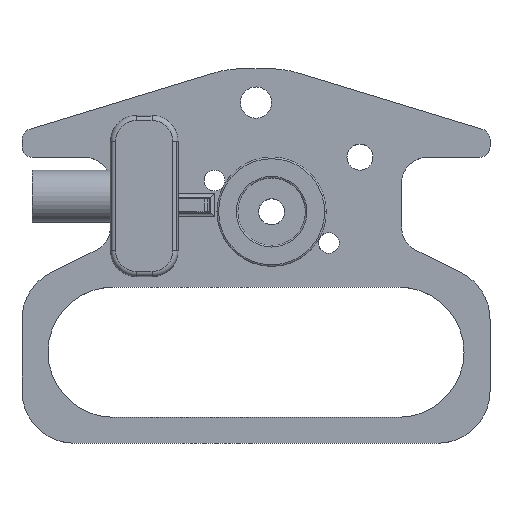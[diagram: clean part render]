
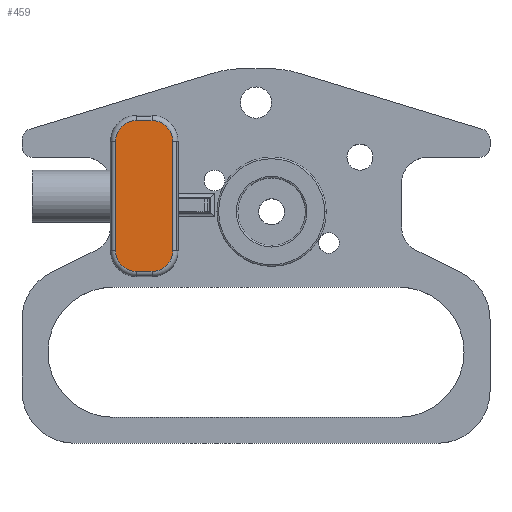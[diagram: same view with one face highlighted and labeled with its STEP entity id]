
A CAD part, top view. The second image highlights one B-rep face of the part: STEP entity #459.
In plain terms, the highlighted planar face has unit normal (0, 0, 1).
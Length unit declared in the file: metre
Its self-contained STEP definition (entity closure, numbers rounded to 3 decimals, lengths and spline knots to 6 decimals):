
#459=ADVANCED_FACE('',(#765),#766,.T.);
#765=FACE_OUTER_BOUND('',#1086,.T.);
#766=PLANE('',#1087);
#1086=EDGE_LOOP('',(#2204,#2205,#2206,#2207,#2208,#2209,#2210,#2211));
#1087=AXIS2_PLACEMENT_3D('',#2212,#2213,#2214);
#2204=ORIENTED_EDGE('',*,*,#2655,.F.);
#2205=ORIENTED_EDGE('',*,*,#2650,.F.);
#2206=ORIENTED_EDGE('',*,*,#2661,.F.);
#2207=ORIENTED_EDGE('',*,*,#2642,.F.);
#2208=ORIENTED_EDGE('',*,*,#2671,.F.);
#2209=ORIENTED_EDGE('',*,*,#2668,.F.);
#2210=ORIENTED_EDGE('',*,*,#2665,.F.);
#2211=ORIENTED_EDGE('',*,*,#2658,.F.);
#2212=CARTESIAN_POINT('',(0.024,-0.034,0.02));
#2213=DIRECTION('',(0.0,0.0,1.0));
#2214=DIRECTION('',(1.0,0.0,0.0));
#2642=EDGE_CURVE('',#3246,#3248,#3249,.T.);
#2650=EDGE_CURVE('',#3261,#3263,#3264,.T.);
#2655=EDGE_CURVE('',#3263,#3266,#3270,.T.);
#2658=EDGE_CURVE('',#3266,#3274,#3275,.T.);
#2661=EDGE_CURVE('',#3248,#3261,#3278,.T.);
#2665=EDGE_CURVE('',#3274,#3280,#3283,.T.);
#2668=EDGE_CURVE('',#3280,#3287,#3288,.T.);
#2671=EDGE_CURVE('',#3287,#3246,#3291,.T.);
#3246=VERTEX_POINT('',#4033);
#3248=VERTEX_POINT('',#4035);
#3249=LINE('',#4036,#4037);
#3261=VERTEX_POINT('',#4052);
#3263=VERTEX_POINT('',#4054);
#3264=LINE('',#4055,#4056);
#3266=VERTEX_POINT('',#4058);
#3270=CIRCLE('',#4062,0.004);
#3274=VERTEX_POINT('',#4067);
#3275=LINE('',#4068,#4069);
#3278=CIRCLE('',#4072,0.004);
#3280=VERTEX_POINT('',#4074);
#3283=CIRCLE('',#4077,0.004);
#3287=VERTEX_POINT('',#4082);
#3288=LINE('',#4083,#4084);
#3291=CIRCLE('',#4087,0.004);
#4033=CARTESIAN_POINT('',(0.001,-0.008,0.02));
#4035=CARTESIAN_POINT('',(0.004,-0.008,0.02));
#4036=CARTESIAN_POINT('',(0.01325,-0.008,0.02));
#4037=VECTOR('',#4810,1.0);
#4052=CARTESIAN_POINT('',(0.008,-0.012,0.02));
#4054=CARTESIAN_POINT('',(0.008,-0.033,0.02));
#4055=CARTESIAN_POINT('',(0.008,-0.02825,0.02));
#4056=VECTOR('',#4826,1.0);
#4058=CARTESIAN_POINT('',(0.004,-0.037,0.02));
#4062=AXIS2_PLACEMENT_3D('',#4839,#4840,#4841);
#4067=CARTESIAN_POINT('',(0.001,-0.037,0.02));
#4068=CARTESIAN_POINT('',(0.01325,-0.037,0.02));
#4069=VECTOR('',#4846,1.0);
#4072=AXIS2_PLACEMENT_3D('',#4853,#4854,#4855);
#4074=CARTESIAN_POINT('',(-0.003,-0.033,0.02));
#4077=AXIS2_PLACEMENT_3D('',#4865,#4866,#4867);
#4082=CARTESIAN_POINT('',(-0.003,-0.012,0.02));
#4083=CARTESIAN_POINT('',(-0.003,-0.02825,0.02));
#4084=VECTOR('',#4872,1.0);
#4087=AXIS2_PLACEMENT_3D('',#4879,#4880,#4881);
#4810=DIRECTION('',(1.0,-0.0,0.0));
#4826=DIRECTION('',(0.0,-1.0,0.0));
#4839=CARTESIAN_POINT('',(0.004,-0.033,0.02));
#4840=DIRECTION('',(0.0,-0.0,-1.0));
#4841=DIRECTION('',(0.707,-0.707,0.0));
#4846=DIRECTION('',(-1.0,-0.0,0.0));
#4853=CARTESIAN_POINT('',(0.004,-0.012,0.02));
#4854=DIRECTION('',(0.0,0.0,-1.0));
#4855=DIRECTION('',(0.707,0.707,0.0));
#4865=CARTESIAN_POINT('',(0.001,-0.033,0.02));
#4866=DIRECTION('',(-0.0,0.0,-1.0));
#4867=DIRECTION('',(-0.707,-0.707,0.0));
#4872=DIRECTION('',(0.,1.0,-0.0));
#4879=CARTESIAN_POINT('',(0.001,-0.012,0.02));
#4880=DIRECTION('',(-0.0,0.0,-1.0));
#4881=DIRECTION('',(-0.707,0.707,0.0));
